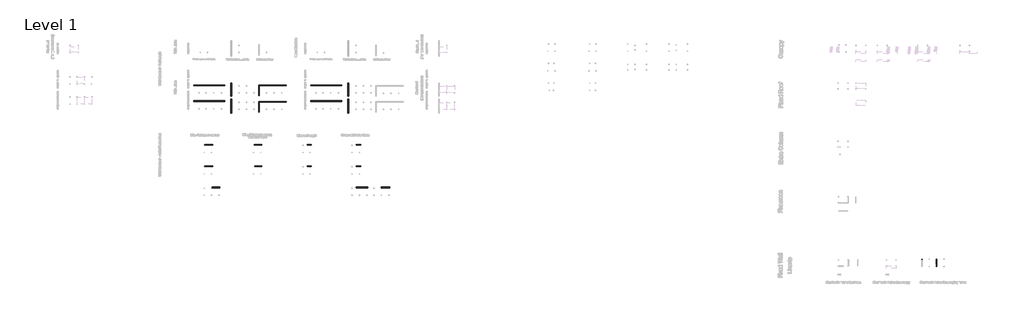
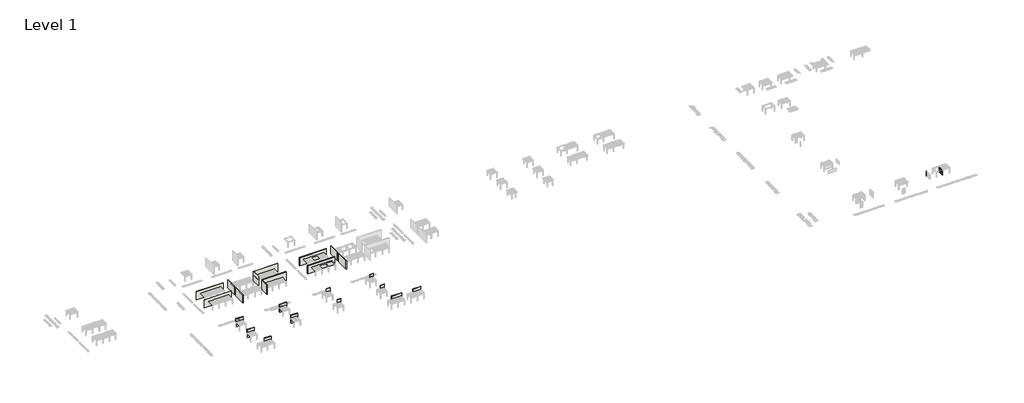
# One storey, part 4 of 80: 47 plates, 46 members, 23 walls.
"""IFC4 building model written with IfcOpenShell, lengths in millimetres."""

from ifc_helpers import new_model, si_unit, origin, origin_with_axes, place, context, project, spatial, polyline, outline, extrude, faceted_brep, transform, mapped, element, save
from components import rectangular_mullion_26476c5b, rectangular_mullion_67e5a697

model = new_model("IFC4")

# Units and contexts
model_context = context("Model", 3, world=origin())
ifc_project = project(units=[si_unit("LENGTHUNIT", "METRE", prefix="MILLI")], contexts=[model_context])

# Site, building, storey
site = spatial("IfcSite", under=ifc_project)
building = spatial("IfcBuilding", under=site)
storey = spatial("IfcBuildingStorey", under=building, Name="Level 1", Elevation=0.0)

# Members
placement = place(None, origin())
rectangular_mullion_shape = rectangular_mullion_26476c5b(model_context)
element("IfcMember", 1, ObjectType="Rectangular Mullion : Renson_Linarte_LA-E25-01", at=placement, inside=storey, context=model_context, shape_type="MappedRepresentation", body=[
    mapped(rectangular_mullion_shape, transform((421900.5749426, -16477.8406318, 0.0), x_axis=(0.0, -1.0, 0.0), y_axis=(-1.0, 0.0, 0.0), z_axis=(0.0, 0.0, -1.0))),
])
element("IfcMember", 2, ObjectType="Rectangular Mullion : Renson_Linarte_LA-E25-01", at=placement, inside=storey, context=model_context, shape_type="MappedRepresentation", body=[
    mapped(rectangular_mullion_shape, transform((421900.5749426, -16537.8406318, 0.0), x_axis=(0.0, -1.0, 0.0), y_axis=(-1.0, 0.0, 0.0), z_axis=(0.0, 0.0, -1.0))),
])
element("IfcMember", 3, ObjectType="Rectangular Mullion : Renson_Linarte_LA-E25-01", at=placement, inside=storey, context=model_context, shape_type="MappedRepresentation", body=[
    mapped(rectangular_mullion_shape, transform((421900.5749426, -16597.8406318, 0.0), x_axis=(0.0, -1.0, 0.0), y_axis=(-1.0, 0.0, 0.0), z_axis=(0.0, 0.0, -1.0))),
])
element("IfcMember", 4, ObjectType="Rectangular Mullion : Renson_Linarte_LA-E25-01", at=placement, inside=storey, context=model_context, shape_type="MappedRepresentation", body=[
    mapped(rectangular_mullion_shape, transform((421900.5749426, -16657.8406318, 0.0), x_axis=(0.0, -1.0, 0.0), y_axis=(-1.0, 0.0, 0.0), z_axis=(0.0, 0.0, -1.0))),
])
element("IfcMember", 5, ObjectType="Rectangular Mullion : Renson_Linarte_LA-E25-01", at=placement, inside=storey, context=model_context, shape_type="MappedRepresentation", body=[
    mapped(rectangular_mullion_shape, transform((421900.5749426, -16717.8406318, 0.0), x_axis=(0.0, -1.0, 0.0), y_axis=(-1.0, 0.0, 0.0), z_axis=(0.0, 0.0, -1.0))),
])
element("IfcMember", 6, ObjectType="Rectangular Mullion : Renson_Linarte_LA-E25-01", at=placement, inside=storey, context=model_context, shape_type="MappedRepresentation", body=[
    mapped(rectangular_mullion_shape, transform((421900.5749426, -16777.8406318, 0.0), x_axis=(0.0, -1.0, 0.0), y_axis=(-1.0, 0.0, 0.0), z_axis=(0.0, 0.0, -1.0))),
])
element("IfcMember", 7, ObjectType="Rectangular Mullion : Renson_Linarte_LA-E25-01", at=placement, inside=storey, context=model_context, shape_type="MappedRepresentation", body=[
    mapped(rectangular_mullion_shape, transform((421900.5749426, -16837.8406318, 0.0), x_axis=(0.0, -1.0, 0.0), y_axis=(-1.0, 0.0, 0.0), z_axis=(0.0, 0.0, -1.0))),
])
element("IfcMember", 8, ObjectType="Rectangular Mullion : Renson_Linarte_LA-E25-01", at=placement, inside=storey, context=model_context, shape_type="MappedRepresentation", body=[
    mapped(rectangular_mullion_shape, transform((421900.5749426, -16897.8406318, 0.0), x_axis=(0.0, -1.0, 0.0), y_axis=(-1.0, 0.0, 0.0), z_axis=(0.0, 0.0, -1.0))),
])
element("IfcMember", 9, ObjectType="Rectangular Mullion : Renson_Linarte_LA-E25-01", at=placement, inside=storey, context=model_context, shape_type="MappedRepresentation", body=[
    mapped(rectangular_mullion_shape, transform((421900.5749426, -16957.8406318, 0.0), x_axis=(0.0, -1.0, 0.0), y_axis=(-1.0, 0.0, 0.0), z_axis=(0.0, 0.0, -1.0))),
])
element("IfcMember", 10, ObjectType="Rectangular Mullion : Renson_Linarte_LA-E25-01", at=placement, inside=storey, context=model_context, shape_type="MappedRepresentation", body=[
    mapped(rectangular_mullion_shape, transform((421900.5749426, -17017.8406318, 0.0), x_axis=(0.0, -1.0, 0.0), y_axis=(-1.0, 0.0, 0.0), z_axis=(0.0, 0.0, -1.0))),
])
element("IfcMember", 11, ObjectType="Rectangular Mullion : Renson_Linarte_LA-E25-01", at=placement, inside=storey, context=model_context, shape_type="MappedRepresentation", body=[
    mapped(rectangular_mullion_shape, transform((421900.5749426, -17077.8406318, 0.0), x_axis=(0.0, -1.0, 0.0), y_axis=(-1.0, 0.0, 0.0), z_axis=(0.0, 0.0, -1.0))),
])
element("IfcMember", 12, ObjectType="Rectangular Mullion : Renson_Linarte_LA-E25-01", at=placement, inside=storey, context=model_context, shape_type="MappedRepresentation", body=[
    mapped(rectangular_mullion_shape, transform((421900.5749426, -17137.8406318, 0.0), x_axis=(0.0, -1.0, 0.0), y_axis=(-1.0, 0.0, 0.0), z_axis=(0.0, 0.0, -1.0))),
])
element("IfcMember", 13, ObjectType="Rectangular Mullion : Renson_Linarte_LA-E25-01", at=placement, inside=storey, context=model_context, shape_type="MappedRepresentation", body=[
    mapped(rectangular_mullion_shape, transform((421900.5749426, -17197.8406318, 0.0), x_axis=(0.0, -1.0, 0.0), y_axis=(-1.0, 0.0, 0.0), z_axis=(0.0, 0.0, -1.0))),
])
element("IfcMember", 14, ObjectType="Rectangular Mullion : Renson_Linarte_LA-E25-01", at=placement, inside=storey, context=model_context, shape_type="MappedRepresentation", body=[
    mapped(rectangular_mullion_shape, transform((421900.5749426, -17257.8406318, 0.0), x_axis=(0.0, -1.0, 0.0), y_axis=(-1.0, 0.0, 0.0), z_axis=(0.0, 0.0, -1.0))),
])
element("IfcMember", 15, ObjectType="Rectangular Mullion : Renson_Linarte_LA-E25-01", at=placement, inside=storey, context=model_context, shape_type="MappedRepresentation", body=[
    mapped(rectangular_mullion_shape, transform((421900.5749426, -17317.8406318, 0.0), x_axis=(0.0, -1.0, 0.0), y_axis=(-1.0, 0.0, 0.0), z_axis=(0.0, 0.0, -1.0))),
])
element("IfcMember", 16, ObjectType="Rectangular Mullion : Renson_Linarte_LA-E25-01", at=placement, inside=storey, context=model_context, shape_type="MappedRepresentation", body=[
    mapped(rectangular_mullion_shape, transform((421900.5749426, -17377.8406318, 0.0), x_axis=(0.0, -1.0, 0.0), y_axis=(-1.0, 0.0, 0.0), z_axis=(0.0, 0.0, -1.0))),
])
element("IfcMember", 17, ObjectType="Rectangular Mullion : Renson_Linarte_LA-E25-01", at=placement, inside=storey, context=model_context, shape_type="MappedRepresentation", body=[
    mapped(rectangular_mullion_shape, transform((421900.5749426, -17437.8406318, 0.0), x_axis=(0.0, -1.0, 0.0), y_axis=(-1.0, 0.0, 0.0), z_axis=(0.0, 0.0, -1.0))),
])
element("IfcMember", 18, ObjectType="Rectangular Mullion : Renson_Linarte_LA-E25-01", at=placement, inside=storey, context=model_context, shape_type="MappedRepresentation", body=[
    mapped(rectangular_mullion_shape, transform((421900.5749426, -17497.8406318, 0.0), x_axis=(0.0, -1.0, 0.0), y_axis=(-1.0, 0.0, 0.0), z_axis=(0.0, 0.0, -1.0))),
])
element("IfcMember", 19, ObjectType="Rectangular Mullion : Renson_Linarte_LA-E25-01", at=placement, inside=storey, context=model_context, shape_type="MappedRepresentation", body=[
    mapped(rectangular_mullion_shape, transform((421900.5749426, -17557.8406318, 0.0), x_axis=(0.0, -1.0, 0.0), y_axis=(-1.0, 0.0, 0.0), z_axis=(0.0, 0.0, -1.0))),
])
element("IfcMember", 20, ObjectType="Rectangular Mullion : Renson_Linarte_LA-E25-01", at=placement, inside=storey, context=model_context, shape_type="MappedRepresentation", body=[
    mapped(rectangular_mullion_shape, transform((421900.5749426, -17617.8406318, 0.0), x_axis=(0.0, -1.0, 0.0), y_axis=(-1.0, 0.0, 0.0), z_axis=(0.0, 0.0, -1.0))),
])
element("IfcMember", 21, ObjectType="Rectangular Mullion : Renson_Linarte_LA-E25-01", at=placement, inside=storey, context=model_context, shape_type="MappedRepresentation", body=[
    mapped(rectangular_mullion_shape, transform((421900.5749426, -17677.8406318, 0.0), x_axis=(0.0, -1.0, 0.0), y_axis=(-1.0, 0.0, 0.0), z_axis=(0.0, 0.0, -1.0))),
])
element("IfcMember", 22, ObjectType="Rectangular Mullion : Renson_Linarte_LA-E25-01", at=placement, inside=storey, context=model_context, shape_type="MappedRepresentation", body=[
    mapped(rectangular_mullion_shape, transform((421900.5749426, -17737.8406318, 0.0), x_axis=(0.0, -1.0, 0.0), y_axis=(-1.0, 0.0, 0.0), z_axis=(0.0, 0.0, -1.0))),
])
element("IfcMember", 23, ObjectType="Rectangular Mullion : Renson_Linarte_LA-E25-01", at=placement, inside=storey, context=model_context, shape_type="MappedRepresentation", body=[
    mapped(rectangular_mullion_shape, transform((421900.5749426, -17797.8406318, 0.0), x_axis=(0.0, -1.0, 0.0), y_axis=(-1.0, 0.0, 0.0), z_axis=(0.0, 0.0, -1.0))),
])
element("IfcMember", 24, ObjectType="Rectangular Mullion : Renson_Linarte_LA-E25-01", at=placement, inside=storey, context=model_context, shape_type="MappedRepresentation", body=[
    mapped(rectangular_mullion_shape, transform((421900.5749426, -17857.8406318, 0.0), x_axis=(0.0, -1.0, 0.0), y_axis=(-1.0, 0.0, 0.0), z_axis=(0.0, 0.0, -1.0))),
])
element("IfcMember", 25, ObjectType="Rectangular Mullion : Renson_Linarte_LA-E25-01", at=placement, inside=storey, context=model_context, shape_type="MappedRepresentation", body=[
    mapped(rectangular_mullion_shape, transform((421900.5749426, -17917.8406318, 0.0), x_axis=(0.0, -1.0, 0.0), y_axis=(-1.0, 0.0, 0.0), z_axis=(0.0, 0.0, -1.0))),
])
element("IfcMember", 26, ObjectType="Rectangular Mullion : Renson_Linarte_LA-E25-01", at=placement, inside=storey, context=model_context, shape_type="MappedRepresentation", body=[
    mapped(rectangular_mullion_shape, transform((421900.5749426, -17977.8406318, 0.0), x_axis=(0.0, -1.0, 0.0), y_axis=(-1.0, 0.0, 0.0), z_axis=(0.0, 0.0, -1.0))),
])
element("IfcMember", 27, ObjectType="Rectangular Mullion : Renson_Linarte_LA-E25-01", at=placement, inside=storey, context=model_context, shape_type="MappedRepresentation", body=[
    mapped(rectangular_mullion_shape, transform((421900.5749426, -18157.8406318, 0.0), x_axis=(0.0, -1.0, 0.0), y_axis=(-1.0, 0.0, 0.0), z_axis=(0.0, 0.0, -1.0))),
])
element("IfcMember", 28, ObjectType="Rectangular Mullion : Renson_Linarte_LA-E25-01", at=placement, inside=storey, context=model_context, shape_type="MappedRepresentation", body=[
    mapped(rectangular_mullion_shape, transform((421900.5749426, -18217.8406318, 0.0), x_axis=(0.0, -1.0, 0.0), y_axis=(-1.0, 0.0, 0.0), z_axis=(0.0, 0.0, -1.0))),
])
element("IfcMember", 29, ObjectType="Rectangular Mullion : Renson_Linarte_LA-E25-01", at=placement, inside=storey, context=model_context, shape_type="MappedRepresentation", body=[
    mapped(rectangular_mullion_shape, transform((421900.5749426, -18277.8406318, 0.0), x_axis=(0.0, -1.0, 0.0), y_axis=(-1.0, 0.0, 0.0), z_axis=(0.0, 0.0, -1.0))),
])
element("IfcMember", 30, ObjectType="Rectangular Mullion : Renson_Linarte_LA-E25-01", at=placement, inside=storey, context=model_context, shape_type="MappedRepresentation", body=[
    mapped(rectangular_mullion_shape, transform((421900.5749426, -18337.8406318, 0.0), x_axis=(0.0, -1.0, 0.0), y_axis=(-1.0, 0.0, 0.0), z_axis=(0.0, 0.0, -1.0))),
])
element("IfcMember", 31, ObjectType="Rectangular Mullion : Renson_Linarte_LA-E25-01", at=placement, inside=storey, context=model_context, shape_type="MappedRepresentation", body=[
    mapped(rectangular_mullion_shape, transform((421900.5749426, -18397.8406318, 0.0), x_axis=(0.0, -1.0, 0.0), y_axis=(-1.0, 0.0, 0.0), z_axis=(0.0, 0.0, -1.0))),
])
element("IfcMember", 32, ObjectType="Rectangular Mullion : Renson_Linarte_LA-E25-01", at=placement, inside=storey, context=model_context, shape_type="MappedRepresentation", body=[
    mapped(rectangular_mullion_shape, transform((421900.5749426, -18457.8406318, 0.0), x_axis=(0.0, -1.0, 0.0), y_axis=(-1.0, 0.0, 0.0), z_axis=(0.0, 0.0, -1.0))),
])
element("IfcMember", 33, ObjectType="Rectangular Mullion : Renson_Linarte_LA-E25-01", at=placement, inside=storey, context=model_context, shape_type="MappedRepresentation", body=[
    mapped(rectangular_mullion_shape, transform((421900.5749426, -18517.8406318, 0.0), x_axis=(0.0, -1.0, 0.0), y_axis=(-1.0, 0.0, 0.0), z_axis=(0.0, 0.0, -1.0))),
])
element("IfcMember", 34, ObjectType="Rectangular Mullion : Renson_Linarte_LA-E25-01", at=placement, inside=storey, context=model_context, shape_type="MappedRepresentation", body=[
    mapped(rectangular_mullion_shape, transform((421900.5749426, -16417.8406318, 0.0), x_axis=(0.0, -1.0, 0.0), y_axis=(-1.0, 0.0, 0.0), z_axis=(0.0, 0.0, -1.0))),
])
element("IfcMember", 35, ObjectType="Rectangular Mullion : Renson_Linarte_LA-E25-01", at=placement, inside=storey, context=model_context, shape_type="MappedRepresentation", body=[
    mapped(rectangular_mullion_shape, transform((421900.5749426, -16357.8406318, 0.0), x_axis=(0.0, -1.0, 0.0), y_axis=(-1.0, 0.0, 0.0), z_axis=(0.0, 0.0, -1.0))),
])
element("IfcMember", 36, ObjectType="Rectangular Mullion : Renson_Linarte_LA-E25-01", at=placement, inside=storey, context=model_context, shape_type="MappedRepresentation", body=[
    mapped(rectangular_mullion_shape, transform((421900.5749426, -16297.8406318, 0.0), x_axis=(0.0, -1.0, 0.0), y_axis=(-1.0, 0.0, 0.0), z_axis=(0.0, 0.0, -1.0))),
])
element("IfcMember", 37, ObjectType="Rectangular Mullion : Renson_Linarte_LA-E25-01", at=placement, inside=storey, context=model_context, shape_type="MappedRepresentation", body=[
    mapped(rectangular_mullion_shape, transform((421900.5749426, -16237.8406318, 0.0), x_axis=(0.0, -1.0, 0.0), y_axis=(-1.0, 0.0, 0.0), z_axis=(0.0, 0.0, -1.0))),
])
element("IfcMember", 38, ObjectType="Rectangular Mullion : Renson_Linarte_LA-E25-01", at=placement, inside=storey, context=model_context, shape_type="MappedRepresentation", body=[
    mapped(rectangular_mullion_shape, transform((421900.5749426, -16177.8406318, 0.0), x_axis=(0.0, -1.0, 0.0), y_axis=(-1.0, 0.0, 0.0), z_axis=(0.0, 0.0, -1.0))),
])
element("IfcMember", 39, ObjectType="Rectangular Mullion : Renson_Linarte_LA-E25-01", at=placement, inside=storey, context=model_context, shape_type="MappedRepresentation", body=[
    mapped(rectangular_mullion_shape, transform((421900.5749426, -16117.8406318, 0.0), x_axis=(0.0, -1.0, 0.0), y_axis=(-1.0, 0.0, 0.0), z_axis=(0.0, 0.0, -1.0))),
])
element("IfcMember", 40, ObjectType="Rectangular Mullion : Renson_Linarte_LA-E25-01", at=placement, inside=storey, context=model_context, shape_type="MappedRepresentation", body=[
    mapped(rectangular_mullion_shape, transform((421900.5749426, -16057.8406318, 0.0), x_axis=(0.0, -1.0, 0.0), y_axis=(-1.0, 0.0, 0.0), z_axis=(0.0, 0.0, -1.0))),
])
element("IfcMember", 41, ObjectType="Rectangular Mullion : Renson_Linarte_LA-E25-01", at=placement, inside=storey, context=model_context, shape_type="MappedRepresentation", body=[
    mapped(rectangular_mullion_shape, transform((421900.5749426, -15997.8406318, 0.0), x_axis=(0.0, -1.0, 0.0), y_axis=(-1.0, 0.0, 0.0), z_axis=(0.0, 0.0, -1.0))),
])
element("IfcMember", 42, ObjectType="Rectangular Mullion : Renson_Linarte_LA-E25-01", at=placement, inside=storey, context=model_context, shape_type="MappedRepresentation", body=[
    mapped(rectangular_mullion_shape, transform((421900.5749426, -15937.8406318, 0.0), x_axis=(0.0, -1.0, 0.0), y_axis=(-1.0, 0.0, 0.0), z_axis=(0.0, 0.0, -1.0))),
])
element("IfcMember", 43, ObjectType="Rectangular Mullion : Renson_Linarte_LA-E25-01", at=placement, inside=storey, context=model_context, shape_type="MappedRepresentation", body=[
    mapped(rectangular_mullion_shape, transform((416146.3354185, -15997.8406318, 0.0), x_axis=(0.0, -1.0, 0.0), y_axis=(-1.0, 0.0, 0.0), z_axis=(0.0, 0.0, -1.0))),
])
element("IfcMember", 44, ObjectType="Rectangular Mullion : Renson_Linarte_LA-E25-01", at=placement, inside=storey, context=model_context, shape_type="MappedRepresentation", body=[
    mapped(rectangular_mullion_shape, transform((416146.3354185, -15937.8406318, 0.0), x_axis=(0.0, -1.0, 0.0), y_axis=(-1.0, 0.0, 0.0), z_axis=(0.0, 0.0, -1.0))),
])
rectangular_mullion_2_shape = rectangular_mullion_67e5a697(model_context)
element("IfcMember", 45, ObjectType="Rectangular Mullion : Renson_Linarte_LA-E25-01", at=placement, inside=storey, context=model_context, shape_type="MappedRepresentation", body=[
    mapped(rectangular_mullion_2_shape, transform((416146.3354185, -15877.8406315, 2225.0), x_axis=(0.0, 1.0, 0.0), y_axis=(-1.0, 0.0, 0.0), z_axis=(0.0, 0.0, 1.0))),
])
element("IfcMember", 46, ObjectType="Rectangular Mullion : Renson_Linarte_LA-E25-01", at=placement, inside=storey, context=model_context, shape_type="MappedRepresentation", body=[
    mapped(rectangular_mullion_2_shape, transform((421900.5749426, -15877.8406315, 2225.0), x_axis=(0.0, 1.0, 0.0), y_axis=(-1.0, 0.0, 0.0), z_axis=(0.0, 0.0, 1.0))),
])

# Plates
element("IfcPlate", 47, ObjectType="Base - 88mm", at=placement, inside=storey, context=model_context, shape_type="SweptSolid", body=[
    extrude(outline(polyline([(421856.5749426, -18577.8406315), (421856.5749426, -18517.8406318), (421944.5749426, -18517.8406318), (421944.5749426, -18577.8406315), (421856.5749426, -18577.8406315)])), origin_with_axes(), (0.0, 0.0, 1.0), 2225.0),
])
element("IfcPlate", 48, ObjectType="Base - 88mm", at=placement, inside=storey, context=model_context, shape_type="SweptSolid", body=[
    extrude(outline(polyline([(421856.5749426, -18517.8406318), (421856.5749426, -18457.8406318), (421944.5749426, -18457.8406318), (421944.5749426, -18517.8406318), (421856.5749426, -18517.8406318)])), origin_with_axes(), (0.0, 0.0, 1.0), 2225.0),
])
element("IfcPlate", 49, ObjectType="Base - 88mm", at=placement, inside=storey, context=model_context, shape_type="SweptSolid", body=[
    extrude(outline(polyline([(421856.5749426, -18457.8406318), (421856.5749426, -18397.8406318), (421944.5749426, -18397.8406318), (421944.5749426, -18457.8406318), (421856.5749426, -18457.8406318)])), origin_with_axes(), (0.0, 0.0, 1.0), 2225.0),
])
element("IfcPlate", 50, ObjectType="Base - 88mm", at=placement, inside=storey, context=model_context, shape_type="SweptSolid", body=[
    extrude(outline(polyline([(421856.5749426, -18397.8406318), (421856.5749426, -18337.8406318), (421944.5749426, -18337.8406318), (421944.5749426, -18397.8406318), (421856.5749426, -18397.8406318)])), origin_with_axes(), (0.0, 0.0, 1.0), 2225.0),
])
element("IfcPlate", 51, ObjectType="Base - 88mm", at=placement, inside=storey, context=model_context, shape_type="SweptSolid", body=[
    extrude(outline(polyline([(421856.5749426, -18337.8406318), (421856.5749426, -18277.8406318), (421944.5749426, -18277.8406318), (421944.5749426, -18337.8406318), (421856.5749426, -18337.8406318)])), origin_with_axes(), (0.0, 0.0, 1.0), 2225.0),
])
element("IfcPlate", 52, ObjectType="Base - 88mm", at=placement, inside=storey, context=model_context, shape_type="SweptSolid", body=[
    extrude(outline(polyline([(421856.5749426, -18277.8406318), (421856.5749426, -18217.8406318), (421944.5749426, -18217.8406318), (421944.5749426, -18277.8406318), (421856.5749426, -18277.8406318)])), origin_with_axes(), (0.0, 0.0, 1.0), 2225.0),
])
element("IfcPlate", 53, ObjectType="Base - 88mm", at=placement, inside=storey, context=model_context, shape_type="SweptSolid", body=[
    extrude(outline(polyline([(421856.5749426, -18217.8406318), (421856.5749426, -18157.8406318), (421944.5749426, -18157.8406318), (421944.5749426, -18217.8406318), (421856.5749426, -18217.8406318)])), origin_with_axes(), (0.0, 0.0, 1.0), 2225.0),
])
element("IfcPlate", 54, ObjectType="Base - 88mm", at=placement, inside=storey, context=model_context, shape_type="SweptSolid", body=[
    extrude(outline(polyline([(421856.5749426, -18157.8406318), (421856.5749426, -18097.8406318), (421944.5749426, -18097.8406318), (421944.5749426, -18157.8406318), (421856.5749426, -18157.8406318)])), origin_with_axes(), (0.0, 0.0, 1.0), 2225.0),
])
element("IfcPlate", 55, ObjectType="Base - 88mm", at=placement, inside=storey, context=model_context, shape_type="SweptSolid", body=[
    extrude(outline(polyline([(421856.5749426, -18097.8406318), (421856.5749426, -18037.8406318), (421944.5749426, -18037.8406318), (421944.5749426, -18097.8406318), (421856.5749426, -18097.8406318)])), origin_with_axes(), (0.0, 0.0, 1.0), 2225.0),
])
element("IfcPlate", 56, ObjectType="Base - 88mm", at=placement, inside=storey, context=model_context, shape_type="SweptSolid", body=[
    extrude(outline(polyline([(421856.5749426, -18037.8406318), (421856.5749426, -17977.8406318), (421944.5749426, -17977.8406318), (421944.5749426, -18037.8406318), (421856.5749426, -18037.8406318)])), origin_with_axes(), (0.0, 0.0, 1.0), 2225.0),
])
element("IfcPlate", 57, ObjectType="Base - 88mm", at=placement, inside=storey, context=model_context, shape_type="SweptSolid", body=[
    extrude(outline(polyline([(421856.5749426, -17977.8406318), (421856.5749426, -17917.8406318), (421944.5749426, -17917.8406318), (421944.5749426, -17977.8406318), (421856.5749426, -17977.8406318)])), origin_with_axes(), (0.0, 0.0, 1.0), 2225.0),
])
element("IfcPlate", 58, ObjectType="Base - 88mm", at=placement, inside=storey, context=model_context, shape_type="SweptSolid", body=[
    extrude(outline(polyline([(421856.5749426, -17917.8406318), (421856.5749426, -17857.8406318), (421944.5749426, -17857.8406318), (421944.5749426, -17917.8406318), (421856.5749426, -17917.8406318)])), origin_with_axes(), (0.0, 0.0, 1.0), 2225.0),
])
element("IfcPlate", 59, ObjectType="Base - 88mm", at=placement, inside=storey, context=model_context, shape_type="SweptSolid", body=[
    extrude(outline(polyline([(421856.5749426, -17857.8406318), (421856.5749426, -17797.8406318), (421944.5749426, -17797.8406318), (421944.5749426, -17857.8406318), (421856.5749426, -17857.8406318)])), origin_with_axes(), (0.0, 0.0, 1.0), 2225.0),
])
element("IfcPlate", 60, ObjectType="Base - 88mm", at=placement, inside=storey, context=model_context, shape_type="SweptSolid", body=[
    extrude(outline(polyline([(421856.5749426, -17797.8406318), (421856.5749426, -17737.8406318), (421944.5749426, -17737.8406318), (421944.5749426, -17797.8406318), (421856.5749426, -17797.8406318)])), origin_with_axes(), (0.0, 0.0, 1.0), 2225.0),
])
element("IfcPlate", 61, ObjectType="Base - 88mm", at=placement, inside=storey, context=model_context, shape_type="SweptSolid", body=[
    extrude(outline(polyline([(421856.5749426, -17737.8406318), (421856.5749426, -17677.8406318), (421944.5749426, -17677.8406318), (421944.5749426, -17737.8406318), (421856.5749426, -17737.8406318)])), origin_with_axes(), (0.0, 0.0, 1.0), 2225.0),
])
element("IfcPlate", 62, ObjectType="Base - 88mm", at=placement, inside=storey, context=model_context, shape_type="SweptSolid", body=[
    extrude(outline(polyline([(421856.5749426, -17677.8406318), (421856.5749426, -17617.8406318), (421944.5749426, -17617.8406318), (421944.5749426, -17677.8406318), (421856.5749426, -17677.8406318)])), origin_with_axes(), (0.0, 0.0, 1.0), 2225.0),
])
element("IfcPlate", 63, ObjectType="Base - 88mm", at=placement, inside=storey, context=model_context, shape_type="SweptSolid", body=[
    extrude(outline(polyline([(421856.5749426, -17617.8406318), (421856.5749426, -17557.8406318), (421944.5749426, -17557.8406318), (421944.5749426, -17617.8406318), (421856.5749426, -17617.8406318)])), origin_with_axes(), (0.0, 0.0, 1.0), 2225.0),
])
element("IfcPlate", 64, ObjectType="Base - 88mm", at=placement, inside=storey, context=model_context, shape_type="SweptSolid", body=[
    extrude(outline(polyline([(421856.5749426, -17557.8406318), (421856.5749426, -17497.8406318), (421944.5749426, -17497.8406318), (421944.5749426, -17557.8406318), (421856.5749426, -17557.8406318)])), origin_with_axes(), (0.0, 0.0, 1.0), 2225.0),
])
element("IfcPlate", 65, ObjectType="Base - 88mm", at=placement, inside=storey, context=model_context, shape_type="SweptSolid", body=[
    extrude(outline(polyline([(421856.5749426, -17497.8406318), (421856.5749426, -17437.8406318), (421944.5749426, -17437.8406318), (421944.5749426, -17497.8406318), (421856.5749426, -17497.8406318)])), origin_with_axes(), (0.0, 0.0, 1.0), 2225.0),
])
element("IfcPlate", 66, ObjectType="Base - 88mm", at=placement, inside=storey, context=model_context, shape_type="SweptSolid", body=[
    extrude(outline(polyline([(421856.5749426, -17437.8406318), (421856.5749426, -17377.8406318), (421944.5749426, -17377.8406318), (421944.5749426, -17437.8406318), (421856.5749426, -17437.8406318)])), origin_with_axes(), (0.0, 0.0, 1.0), 2225.0),
])
element("IfcPlate", 67, ObjectType="Base - 88mm", at=placement, inside=storey, context=model_context, shape_type="SweptSolid", body=[
    extrude(outline(polyline([(421856.5749426, -17377.8406318), (421856.5749426, -17317.8406318), (421944.5749426, -17317.8406318), (421944.5749426, -17377.8406318), (421856.5749426, -17377.8406318)])), origin_with_axes(), (0.0, 0.0, 1.0), 2225.0),
])
element("IfcPlate", 68, ObjectType="Base - 88mm", at=placement, inside=storey, context=model_context, shape_type="SweptSolid", body=[
    extrude(outline(polyline([(421856.5749426, -17317.8406318), (421856.5749426, -17257.8406318), (421944.5749426, -17257.8406318), (421944.5749426, -17317.8406318), (421856.5749426, -17317.8406318)])), origin_with_axes(), (0.0, 0.0, 1.0), 2225.0),
])
element("IfcPlate", 69, ObjectType="Base - 88mm", at=placement, inside=storey, context=model_context, shape_type="SweptSolid", body=[
    extrude(outline(polyline([(421856.5749426, -17257.8406318), (421856.5749426, -17197.8406318), (421944.5749426, -17197.8406318), (421944.5749426, -17257.8406318), (421856.5749426, -17257.8406318)])), origin_with_axes(), (0.0, 0.0, 1.0), 2225.0),
])
element("IfcPlate", 70, ObjectType="Base - 88mm", at=placement, inside=storey, context=model_context, shape_type="SweptSolid", body=[
    extrude(outline(polyline([(421856.5749426, -17197.8406318), (421856.5749426, -17137.8406318), (421944.5749426, -17137.8406318), (421944.5749426, -17197.8406318), (421856.5749426, -17197.8406318)])), origin_with_axes(), (0.0, 0.0, 1.0), 2225.0),
])
element("IfcPlate", 71, ObjectType="Base - 88mm", at=placement, inside=storey, context=model_context, shape_type="SweptSolid", body=[
    extrude(outline(polyline([(421856.5749426, -17137.8406318), (421856.5749426, -17077.8406318), (421944.5749426, -17077.8406318), (421944.5749426, -17137.8406318), (421856.5749426, -17137.8406318)])), origin_with_axes(), (0.0, 0.0, 1.0), 2225.0),
])
element("IfcPlate", 72, ObjectType="Base - 88mm", at=placement, inside=storey, context=model_context, shape_type="SweptSolid", body=[
    extrude(outline(polyline([(421856.5749426, -17077.8406318), (421856.5749426, -17017.8406318), (421944.5749426, -17017.8406318), (421944.5749426, -17077.8406318), (421856.5749426, -17077.8406318)])), origin_with_axes(), (0.0, 0.0, 1.0), 2225.0),
])
element("IfcPlate", 73, ObjectType="Base - 88mm", at=placement, inside=storey, context=model_context, shape_type="SweptSolid", body=[
    extrude(outline(polyline([(421856.5749426, -17017.8406318), (421856.5749426, -16957.8406318), (421944.5749426, -16957.8406318), (421944.5749426, -17017.8406318), (421856.5749426, -17017.8406318)])), origin_with_axes(), (0.0, 0.0, 1.0), 2225.0),
])
element("IfcPlate", 74, ObjectType="Base - 88mm", at=placement, inside=storey, context=model_context, shape_type="SweptSolid", body=[
    extrude(outline(polyline([(421856.5749426, -16957.8406318), (421856.5749426, -16897.8406318), (421944.5749426, -16897.8406318), (421944.5749426, -16957.8406318), (421856.5749426, -16957.8406318)])), origin_with_axes(), (0.0, 0.0, 1.0), 2225.0),
])
element("IfcPlate", 75, ObjectType="Base - 88mm", at=placement, inside=storey, context=model_context, shape_type="SweptSolid", body=[
    extrude(outline(polyline([(421856.5749426, -16897.8406318), (421856.5749426, -16837.8406318), (421944.5749426, -16837.8406318), (421944.5749426, -16897.8406318), (421856.5749426, -16897.8406318)])), origin_with_axes(), (0.0, 0.0, 1.0), 2225.0),
])
element("IfcPlate", 76, ObjectType="Base - 88mm", at=placement, inside=storey, context=model_context, shape_type="SweptSolid", body=[
    extrude(outline(polyline([(421856.5749426, -16837.8406318), (421856.5749426, -16777.8406318), (421944.5749426, -16777.8406318), (421944.5749426, -16837.8406318), (421856.5749426, -16837.8406318)])), origin_with_axes(), (0.0, 0.0, 1.0), 2225.0),
])
element("IfcPlate", 77, ObjectType="Base - 88mm", at=placement, inside=storey, context=model_context, shape_type="SweptSolid", body=[
    extrude(outline(polyline([(421856.5749426, -16777.8406318), (421856.5749426, -16717.8406318), (421944.5749426, -16717.8406318), (421944.5749426, -16777.8406318), (421856.5749426, -16777.8406318)])), origin_with_axes(), (0.0, 0.0, 1.0), 2225.0),
])
element("IfcPlate", 78, ObjectType="Base - 88mm", at=placement, inside=storey, context=model_context, shape_type="SweptSolid", body=[
    extrude(outline(polyline([(421856.5749426, -16717.8406318), (421856.5749426, -16657.8406318), (421944.5749426, -16657.8406318), (421944.5749426, -16717.8406318), (421856.5749426, -16717.8406318)])), origin_with_axes(), (0.0, 0.0, 1.0), 2225.0),
])
element("IfcPlate", 79, ObjectType="Base - 88mm", at=placement, inside=storey, context=model_context, shape_type="SweptSolid", body=[
    extrude(outline(polyline([(421856.5749426, -16657.8406318), (421856.5749426, -16597.8406318), (421944.5749426, -16597.8406318), (421944.5749426, -16657.8406318), (421856.5749426, -16657.8406318)])), origin_with_axes(), (0.0, 0.0, 1.0), 2225.0),
])
element("IfcPlate", 80, ObjectType="Base - 88mm", at=placement, inside=storey, context=model_context, shape_type="SweptSolid", body=[
    extrude(outline(polyline([(421856.5749426, -16597.8406318), (421856.5749426, -16537.8406318), (421944.5749426, -16537.8406318), (421944.5749426, -16597.8406318), (421856.5749426, -16597.8406318)])), origin_with_axes(), (0.0, 0.0, 1.0), 2225.0),
])
element("IfcPlate", 81, ObjectType="Base - 88mm", at=placement, inside=storey, context=model_context, shape_type="SweptSolid", body=[
    extrude(outline(polyline([(421856.5749426, -16537.8406318), (421856.5749426, -16477.8406318), (421944.5749426, -16477.8406318), (421944.5749426, -16537.8406318), (421856.5749426, -16537.8406318)])), origin_with_axes(), (0.0, 0.0, 1.0), 2225.0),
])
element("IfcPlate", 82, ObjectType="Base - 88mm", at=placement, inside=storey, context=model_context, shape_type="SweptSolid", body=[
    extrude(outline(polyline([(421856.5749426, -16477.8406318), (421856.5749426, -16417.8406318), (421944.5749426, -16417.8406318), (421944.5749426, -16477.8406318), (421856.5749426, -16477.8406318)])), origin_with_axes(), (0.0, 0.0, 1.0), 2225.0),
])
element("IfcPlate", 83, ObjectType="Base - 88mm", at=placement, inside=storey, context=model_context, shape_type="SweptSolid", body=[
    extrude(outline(polyline([(421856.5749426, -16417.8406318), (421856.5749426, -16357.8406318), (421944.5749426, -16357.8406318), (421944.5749426, -16417.8406318), (421856.5749426, -16417.8406318)])), origin_with_axes(), (0.0, 0.0, 1.0), 2225.0),
])
element("IfcPlate", 84, ObjectType="Base - 88mm", at=placement, inside=storey, context=model_context, shape_type="SweptSolid", body=[
    extrude(outline(polyline([(421856.5749426, -16357.8406318), (421856.5749426, -16297.8406318), (421944.5749426, -16297.8406318), (421944.5749426, -16357.8406318), (421856.5749426, -16357.8406318)])), origin_with_axes(), (0.0, 0.0, 1.0), 2225.0),
])
element("IfcPlate", 85, ObjectType="Base - 88mm", at=placement, inside=storey, context=model_context, shape_type="SweptSolid", body=[
    extrude(outline(polyline([(421856.5749426, -16297.8406318), (421856.5749426, -16237.8406318), (421944.5749426, -16237.8406318), (421944.5749426, -16297.8406318), (421856.5749426, -16297.8406318)])), origin_with_axes(), (0.0, 0.0, 1.0), 2225.0),
])
element("IfcPlate", 86, ObjectType="Base - 88mm", at=placement, inside=storey, context=model_context, shape_type="SweptSolid", body=[
    extrude(outline(polyline([(421856.5749426, -16237.8406318), (421856.5749426, -16177.8406318), (421944.5749426, -16177.8406318), (421944.5749426, -16237.8406318), (421856.5749426, -16237.8406318)])), origin_with_axes(), (0.0, 0.0, 1.0), 2225.0),
])
element("IfcPlate", 87, ObjectType="Base - 88mm", at=placement, inside=storey, context=model_context, shape_type="SweptSolid", body=[
    extrude(outline(polyline([(421856.5749426, -15937.8406318), (421856.5749426, -15877.8406315), (421944.5749426, -15877.8406315), (421944.5749426, -15937.8406318), (421856.5749426, -15937.8406318)])), origin_with_axes(), (0.0, 0.0, 1.0), 2225.0),
])
element("IfcPlate", 88, ObjectType="Base - 88mm", at=placement, inside=storey, context=model_context, shape_type="SweptSolid", body=[
    extrude(outline(polyline([(421856.5749426, -16177.8406318), (421856.5749426, -16117.8406318), (421944.5749426, -16117.8406318), (421944.5749426, -16177.8406318), (421856.5749426, -16177.8406318)])), origin_with_axes(), (0.0, 0.0, 1.0), 2225.0),
])
element("IfcPlate", 89, ObjectType="Base - 88mm", at=placement, inside=storey, context=model_context, shape_type="SweptSolid", body=[
    extrude(outline(polyline([(421856.5749426, -16117.8406318), (421856.5749426, -16057.8406318), (421944.5749426, -16057.8406318), (421944.5749426, -16117.8406318), (421856.5749426, -16117.8406318)])), origin_with_axes(), (0.0, 0.0, 1.0), 2225.0),
])
element("IfcPlate", 90, ObjectType="Base - 88mm", at=placement, inside=storey, context=model_context, shape_type="SweptSolid", body=[
    extrude(outline(polyline([(421856.5749426, -16057.8406318), (421856.5749426, -15997.8406318), (421944.5749426, -15997.8406318), (421944.5749426, -16057.8406318), (421856.5749426, -16057.8406318)])), origin_with_axes(), (0.0, 0.0, 1.0), 2225.0),
])
element("IfcPlate", 91, ObjectType="Base - 88mm", at=placement, inside=storey, context=model_context, shape_type="SweptSolid", body=[
    extrude(outline(polyline([(421856.5749426, -15997.8406318), (421856.5749426, -15937.8406318), (421944.5749426, -15937.8406318), (421944.5749426, -15997.8406318), (421856.5749426, -15997.8406318)])), origin_with_axes(), (0.0, 0.0, 1.0), 2225.0),
])
element("IfcPlate", 92, ObjectType="Base - 88mm", at=placement, inside=storey, context=model_context, shape_type="SweptSolid", body=[
    extrude(outline(polyline([(416102.3354185, -15937.8406318), (416102.3354185, -15877.8406315), (416190.3354185, -15877.8406315), (416190.3354185, -15937.8406318), (416102.3354185, -15937.8406318)])), origin_with_axes(), (0.0, 0.0, 1.0), 2225.0),
])
element("IfcPlate", 93, ObjectType="Base - 88mm", at=placement, inside=storey, context=model_context, shape_type="SweptSolid", body=[
    extrude(outline(polyline([(416102.3354185, -15997.8406318), (416102.3354185, -15937.8406318), (416190.3354185, -15937.8406318), (416190.3354185, -15997.8406318), (416102.3354185, -15997.8406318)])), origin_with_axes(), (0.0, 0.0, 1.0), 2225.0),
])

# Walls
element("IfcWall", 94, ObjectType="Generic - 200mm", at=placement, inside=storey, context=model_context, shape_type="Brep", body=[
    faceted_brep([(153674.0111744, 46684.0685101, 0.0), (153674.0111744, 42534.0685101, 0.0), (153674.0111744, 42534.0685101, 4500.0), (153674.0111744, 46684.0685101, 4500.0), (153874.0111744, 46684.0685101, 0.0), (153874.0111744, 46684.0685101, 4500.0), (153874.0111744, 46484.0685101, 4500.0), (153874.0111744, 42534.0685101, 4500.0), (153874.0111744, 42534.0685101, 0.0), (153874.0111744, 46484.0685101, 0.0)], [[[0, 1, 2, 3]], [[4, 5, 6, 7, 8, 9]], [[1, 0, 4, 9, 8]], [[2, 1, 8, 7]], [[3, 2, 7, 6, 5]], [[0, 3, 5, 4]]]),
])
element("IfcWall", 95, ObjectType="Generic - 200mm", at=placement, inside=storey, context=model_context, shape_type="SweptSolid", body=[
    extrude(outline(polyline([(164574.0111744, 46484.0685101), (153874.0111744, 46484.0685101), (153874.0111744, 46684.0685101), (164574.0111744, 46684.0685101), (164574.0111744, 46484.0685101)])), origin_with_axes(), (0.0, 0.0, 1.0), 4500.0),
])
element("IfcWall", 96, ObjectType="Generic - 200mm", at=placement, inside=storey, context=model_context, shape_type="Brep", body=[
    faceted_brep([(153674.0111744, 53209.4960358, 0.0), (153674.0111744, 49059.4960358, 0.0), (153674.0111744, 49059.4960358, 4500.0), (153674.0111744, 53209.4960358, 4500.0), (153874.0111744, 53209.4960358, 0.0), (153874.0111744, 53209.4960358, 4500.0), (153874.0111744, 53009.4960358, 4500.0), (153874.0111744, 49059.4960358, 4500.0), (153874.0111744, 49059.4960358, 0.0), (153874.0111744, 53009.4960358, 0.0)], [[[0, 1, 2, 3]], [[4, 5, 6, 7, 8, 9]], [[1, 0, 4, 9, 8]], [[2, 1, 8, 7]], [[3, 2, 7, 6, 5]], [[0, 3, 5, 4]]]),
])
element("IfcWall", 97, ObjectType="Generic - 200mm", at=placement, inside=storey, context=model_context, shape_type="SweptSolid", body=[
    extrude(outline(polyline([(164574.0111744, 53009.4960358), (153874.0111744, 53009.4960358), (153874.0111744, 53209.4960358), (164574.0111744, 53209.4960358), (164574.0111744, 53009.4960358)])), origin_with_axes(), (0.0, 0.0, 1.0), 4500.0),
])
element("IfcWall", 98, ObjectType="Generic - 300mm", at=placement, inside=storey, context=model_context, shape_type="SweptSolid", body=[
    extrude(outline(polyline([(140163.165057, 46734.0685101), (128063.165057, 46734.0685101), (128063.165057, 47034.0685101), (140163.165057, 47034.0685101), (140163.165057, 46734.0685101)])), origin_with_axes(), (0.0, 0.0, 1.0), 3770.0),
])
element("IfcWall", 99, ObjectType="Generic - 300mm", at=placement, inside=storey, context=model_context, shape_type="SweptSolid", body=[
    extrude(outline(polyline([(140163.165057, 53009.4960358), (128063.165057, 53009.4960358), (128063.165057, 53309.4960358), (140163.165057, 53309.4960358), (140163.165057, 53009.4960358)])), origin_with_axes(), (0.0, 0.0, 1.0), 3770.0),
])
element("IfcWall", 100, ObjectType="Generic - 300mm", at=placement, inside=storey, context=model_context, shape_type="SweptSolid", body=[
    extrude(outline(polyline([(142910.3328818, 47734.0685101), (142910.3328818, 42134.0685101), (142610.3328818, 42134.0685101), (142610.3328818, 47734.0685101), (142910.3328818, 47734.0685101)])), origin_with_axes(), (0.0, 0.0, 1.0), 3770.0),
])
element("IfcWall", 101, ObjectType="Generic - 300mm", at=placement, inside=storey, context=model_context, shape_type="SweptSolid", body=[
    extrude(outline(polyline([(142910.3328818, 54009.4960358), (142910.3328818, 48809.4960358), (142610.3328818, 48809.4960358), (142610.3328818, 54009.4960358), (142910.3328818, 54009.4960358)])), origin_with_axes(), (0.0, 0.0, 1.0), 3770.0),
])
element("IfcWall", 102, ObjectType="Generic - 300mm", at=placement, inside=storey, context=model_context, shape_type="SweptSolid", body=[
    extrude(outline(polyline([(186463.165057, 46734.0685101), (174363.165057, 46734.0685101), (174363.165057, 47034.0685101), (186463.165057, 47034.0685101), (186463.165057, 46734.0685101)])), origin_with_axes(), (0.0, 0.0, 1.0), 3770.0),
])
element("IfcWall", 103, ObjectType="Generic - 300mm", at=placement, inside=storey, context=model_context, shape_type="SweptSolid", body=[
    extrude(outline(polyline([(186463.165057, 53009.4960358), (174363.165057, 53009.4960358), (174363.165057, 53309.4960358), (186463.165057, 53309.4960358), (186463.165057, 53009.4960358)])), origin_with_axes(), (0.0, 0.0, 1.0), 3770.0),
])
element("IfcWall", 104, ObjectType="Generic - 300mm", at=placement, inside=storey, context=model_context, shape_type="SweptSolid", body=[
    extrude(outline(polyline([(189210.3328818, 47734.0685101), (189210.3328818, 42134.0685101), (188910.3328818, 42134.0685101), (188910.3328818, 47734.0685101), (189210.3328818, 47734.0685101)])), origin_with_axes(), (0.0, 0.0, 1.0), 3770.0),
])
element("IfcWall", 105, ObjectType="Generic - 300mm", at=placement, inside=storey, context=model_context, shape_type="SweptSolid", body=[
    extrude(outline(polyline([(189210.3328818, 54009.4960358), (189210.3328818, 48809.4960358), (188910.3328818, 48809.4960358), (188910.3328818, 54009.4960358), (189210.3328818, 54009.4960358)])), origin_with_axes(), (0.0, 0.0, 1.0), 3770.0),
])
element("IfcWall", 106, ObjectType="Generic - 300mm", at=placement, inside=storey, context=model_context, shape_type="SweptSolid", body=[
    extrude(outline(polyline([(135463.165057, 29428.5861401), (132363.165057, 29428.5861401), (132363.165057, 29728.5861401), (135463.165057, 29728.5861401), (135463.165057, 29428.5861401)])), origin_with_axes(), (0.0, 0.0, 1.0), 3770.0),
])
element("IfcWall", 107, ObjectType="Generic - 300mm", at=placement, inside=storey, context=model_context, shape_type="SweptSolid", body=[
    extrude(outline(polyline([(135463.165057, 20928.5861401), (132363.165057, 20928.5861401), (132363.165057, 21228.5861401), (135463.165057, 21228.5861401), (135463.165057, 20928.5861401)])), origin_with_axes(), (0.0, 0.0, 1.0), 3770.0),
])
element("IfcWall", 108, ObjectType="Generic - 300mm", at=placement, inside=storey, context=model_context, shape_type="SweptSolid", body=[
    extrude(outline(polyline([(138313.165057, 12504.0136657), (135213.165057, 12504.0136657), (135213.165057, 12804.0136657), (138313.165057, 12804.0136657), (138313.165057, 12504.0136657)])), origin_with_axes(), (0.0, 0.0, 1.0), 3770.0),
])
element("IfcWall", 109, ObjectType="Generic - 300mm", at=placement, inside=storey, context=model_context, shape_type="SweptSolid", body=[
    extrude(outline(polyline([(154963.165057, 29428.5861401), (151863.165057, 29428.5861401), (151863.165057, 29728.5861401), (154963.165057, 29728.5861401), (154963.165057, 29428.5861401)])), origin_with_axes(), (0.0, 0.0, 1.0), 3770.0),
])
element("IfcWall", 110, ObjectType="Generic - 300mm", at=placement, inside=storey, context=model_context, shape_type="SweptSolid", body=[
    extrude(outline(polyline([(154963.165057, 20928.5861401), (152163.165057, 20928.5861401), (152163.165057, 21228.5861401), (154963.165057, 21228.5861401), (154963.165057, 20928.5861401)])), origin_with_axes(), (0.0, 0.0, 1.0), 3770.0),
])
element("IfcWall", 111, ObjectType="Generic - 300mm", at=placement, inside=storey, context=model_context, shape_type="SweptSolid", body=[
    extrude(outline(polyline([(174463.165057, 29428.5861401), (172863.165057, 29428.5861401), (172863.165057, 29728.5861401), (174463.165057, 29728.5861401), (174463.165057, 29428.5861401)])), origin_with_axes(), (0.0, 0.0, 1.0), 3770.0),
])
element("IfcWall", 112, ObjectType="Generic - 300mm", at=placement, inside=storey, context=model_context, shape_type="SweptSolid", body=[
    extrude(outline(polyline([(174463.165057, 20928.5861401), (172863.165057, 20928.5861401), (172863.165057, 21228.5861401), (174463.165057, 21228.5861401), (174463.165057, 20928.5861401)])), origin_with_axes(), (0.0, 0.0, 1.0), 3770.0),
])
element("IfcWall", 113, ObjectType="Generic - 300mm", at=placement, inside=storey, context=model_context, shape_type="SweptSolid", body=[
    extrude(outline(polyline([(193963.165057, 29428.5861401), (192363.165057, 29428.5861401), (192363.165057, 29728.5861401), (193963.165057, 29728.5861401), (193963.165057, 29428.5861401)])), origin_with_axes(), (0.0, 0.0, 1.0), 3770.0),
])
element("IfcWall", 114, ObjectType="Generic - 300mm", at=placement, inside=storey, context=model_context, shape_type="SweptSolid", body=[
    extrude(outline(polyline([(193963.165057, 20928.5861401), (192363.165057, 20928.5861401), (192363.165057, 21228.5861401), (193963.165057, 21228.5861401), (193963.165057, 20928.5861401)])), origin_with_axes(), (0.0, 0.0, 1.0), 3770.0),
])
element("IfcWall", 115, ObjectType="Generic - 300mm", at=placement, inside=storey, context=model_context, shape_type="SweptSolid", body=[
    extrude(outline(polyline([(196813.165057, 12504.0136657), (192363.165057, 12504.0136657), (192363.165057, 12804.0136657), (196813.165057, 12804.0136657), (196813.165057, 12504.0136657)])), origin_with_axes(), (0.0, 0.0, 1.0), 3770.0),
])
element("IfcWall", 116, ObjectType="Generic - 300mm", at=placement, inside=storey, context=model_context, shape_type="SweptSolid", body=[
    extrude(outline(polyline([(205513.165057, 12504.0136657), (202113.165057, 12504.0136657), (202113.165057, 12804.0136657), (205513.165057, 12804.0136657), (205513.165057, 12504.0136657)])), origin_with_axes(), (0.0, 0.0, 1.0), 3770.0),
])

save(model, "model.ifc")
